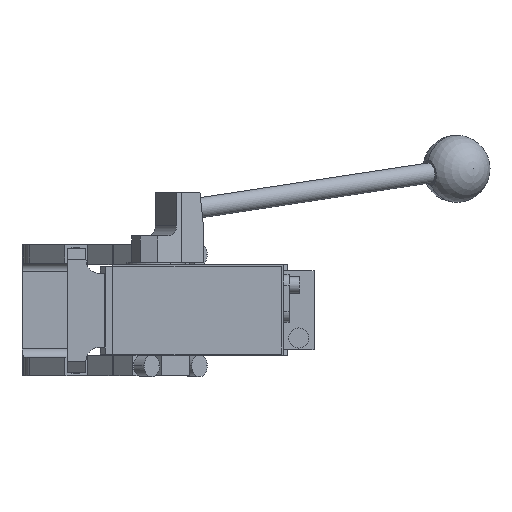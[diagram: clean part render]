
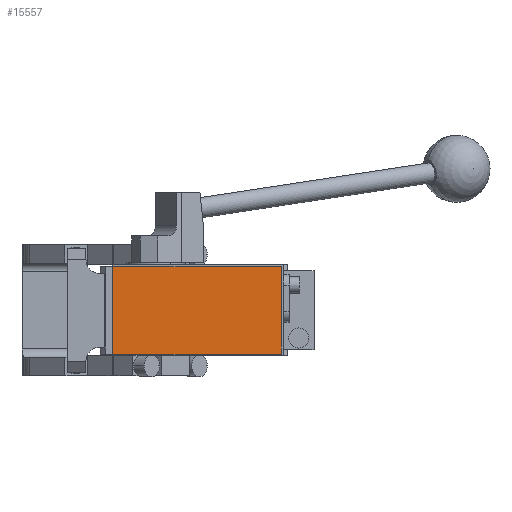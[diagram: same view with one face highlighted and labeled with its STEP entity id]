
A CAD part, front view. The second image highlights one B-rep face of the part: STEP entity #15557.
In plain terms, the highlighted planar face has unit normal (0, -1, 0).
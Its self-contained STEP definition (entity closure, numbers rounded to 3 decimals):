
#28 = LINE ( 'NONE', #4044, #4168 ) ;
#152 = CARTESIAN_POINT ( 'NONE',  ( 0., -286.5, 0. ) ) ;
#438 = CARTESIAN_POINT ( 'NONE',  ( -19., -286.5, -26. ) ) ;
#788 = VECTOR ( 'NONE', #7401, 1000. ) ;
#1375 = PLANE ( 'NONE',  #4653 ) ;
#1567 = DIRECTION ( 'NONE',  ( 0., 0., -1. ) ) ;
#1781 = ORIENTED_EDGE ( 'NONE', *, *, #5120, .T. ) ;
#4044 = CARTESIAN_POINT ( 'NONE',  ( -19., -286.5, 26. ) ) ;
#4168 = VECTOR ( 'NONE', #1567, 1000. ) ;
#4653 = AXIS2_PLACEMENT_3D ( 'NONE', #152, #11616, #5354 ) ;
#4855 = LINE ( 'NONE', #14747, #11530 ) ;
#4957 = DIRECTION ( 'NONE',  ( 0., 0., 1. ) ) ;
#5119 = EDGE_CURVE ( 'NONE', #13584, #15910, #13504, .T. ) ;
#5120 = EDGE_CURVE ( 'NONE', #8013, #13584, #4855, .T. ) ;
#5254 = CARTESIAN_POINT ( 'NONE',  ( -19., -286.5, 26. ) ) ;
#5354 = DIRECTION ( 'NONE',  ( 0., 0., -1. ) ) ;
#5653 = EDGE_CURVE ( 'NONE', #10482, #8013, #6714, .T. ) ;
#6376 = VECTOR ( 'NONE', #15458, 1000. ) ;
#6714 = LINE ( 'NONE', #438, #6376 ) ;
#7401 = DIRECTION ( 'NONE',  ( -1., 0., 0. ) ) ;
#8013 = VERTEX_POINT ( 'NONE', #9211 ) ;
#9081 = ORIENTED_EDGE ( 'NONE', *, *, #5119, .T. ) ;
#9211 = CARTESIAN_POINT ( 'NONE',  ( 81., -286.5, -26. ) ) ;
#9956 = ORIENTED_EDGE ( 'NONE', *, *, #5653, .T. ) ;
#10062 = EDGE_CURVE ( 'NONE', #15910, #10482, #28, .T. ) ;
#10230 = FACE_OUTER_BOUND ( 'NONE', #16207, .T. ) ;
#10482 = VERTEX_POINT ( 'NONE', #13859 ) ;
#11530 = VECTOR ( 'NONE', #4957, 1000. ) ;
#11616 = DIRECTION ( 'NONE',  ( 0., -1., 0. ) ) ;
#12047 = CARTESIAN_POINT ( 'NONE',  ( -19., -286.5, 26. ) ) ;
#13504 = LINE ( 'NONE', #12047, #788 ) ;
#13584 = VERTEX_POINT ( 'NONE', #16239 ) ;
#13859 = CARTESIAN_POINT ( 'NONE',  ( -19., -286.5, -26. ) ) ;
#14633 = ORIENTED_EDGE ( 'NONE', *, *, #10062, .T. ) ;
#14747 = CARTESIAN_POINT ( 'NONE',  ( 81., -286.5, 26. ) ) ;
#15458 = DIRECTION ( 'NONE',  ( 1., 0., 0. ) ) ;
#15557 = ADVANCED_FACE ( 'NONE', ( #10230 ), #1375, .T. ) ;
#15910 = VERTEX_POINT ( 'NONE', #5254 ) ;
#16207 = EDGE_LOOP ( 'NONE', ( #14633, #9956, #1781, #9081 ) ) ;
#16239 = CARTESIAN_POINT ( 'NONE',  ( 81., -286.5, 26. ) ) ;
